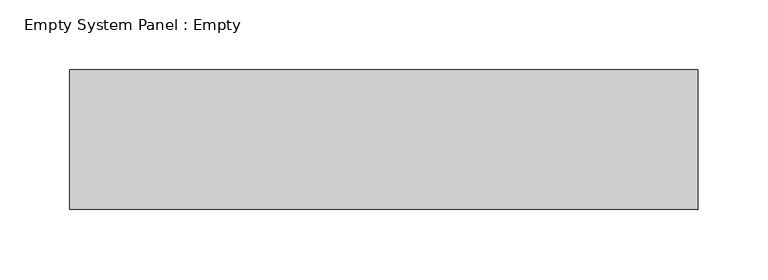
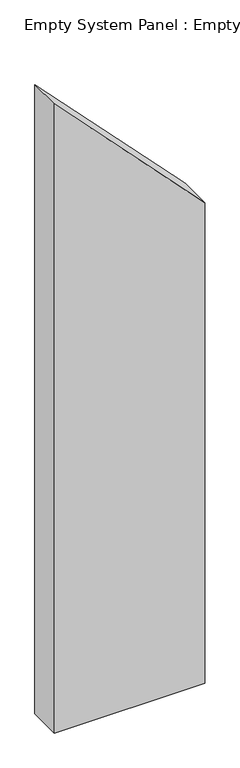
"""IFC4 building model written with IfcOpenShell, lengths in millimetres: plate geometry, Empty System Panel : Empty."""

from ifc_helpers import new_model, si_unit, frame, origin, place, context, project, spatial, polyline, outline, extrude, source, transform, mapped, element, save


def empty_system_panel_empty_c79e2d26(model_context):
    return source(origin(), model_context, "Body", "SweptSolid", [
        extrude(outline(polyline([(0.0, -225.0), (0.0, 225.0), (1519.8625813, 225.0), (1989.6763741, -225.0), (0.0, -225.0)])), frame((0.0, -50.0, 0.0), z_axis=(0.0, 1.0, 0.0), x_axis=(0.0, 0.0, 1.0)), (0.0, 0.0, 1.0), 100.0),
    ])


if __name__ == "__main__":
    model = new_model("IFC4")
    model_context = context("Model", 3, world=origin())
    ifc_project = project(units=[si_unit("LENGTHUNIT", "METRE", prefix="MILLI")], contexts=[model_context])
    site = spatial("IfcSite", under=ifc_project)
    building = spatial("IfcBuilding", under=site)
    placement = place(None, origin())
    empty_system_panel_empty_shape = empty_system_panel_empty_c79e2d26(model_context)
    element("IfcPlate", 1, ObjectType="Empty System Panel : Empty", at=placement, inside=building, context=model_context, shape_type="MappedRepresentation", body=[
        mapped(empty_system_panel_empty_shape, transform((0.0, 0.0, 0.0), x_axis=(1.0, 0.0, 0.0), y_axis=(0.0, 1.0, 0.0), z_axis=(0.0, 0.0, 1.0))),
    ])
    save(model, "model.ifc")
